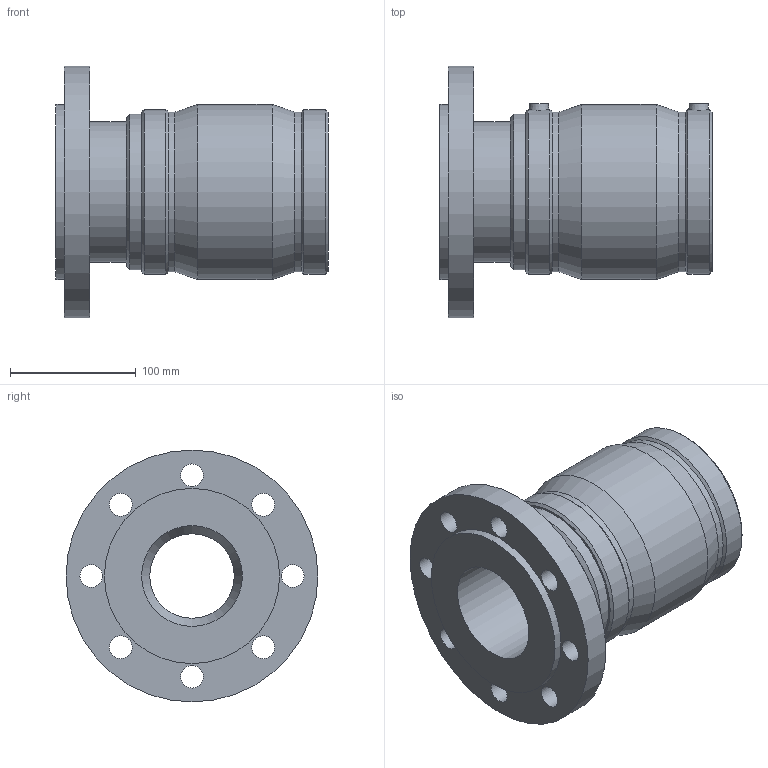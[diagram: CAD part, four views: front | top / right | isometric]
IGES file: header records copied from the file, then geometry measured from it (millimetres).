
Global section: file name: 497704090.ipt; native system: Autodesk Inventor 2015; preprocessor: unknown; author: KIM; date: 20180502.162026; units: millimetre
Bounding box: 216 x 200 x 200 mm (x, y, z)
Volume: 2148934.7 mm3; surface area: 228332.2 mm2
Topology: 1 solids, 2 shells, 57 faces, 126 edges, 83 vertices
Faces by surface type: revolution 17, plane 16, cylinder 13, cone 11
Full cylindrical faces by diameter (mm): 4 x2, 90 x2, 111.339 x1, 123.71 x1, 126.74 x2, 130.66 x2, 139 x2, 200 x1
